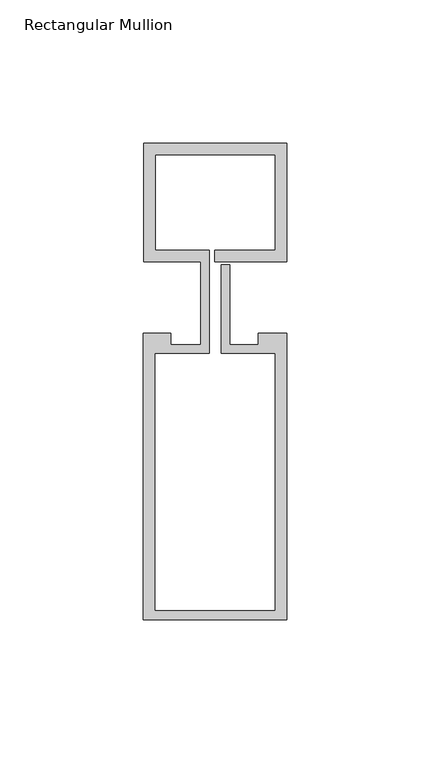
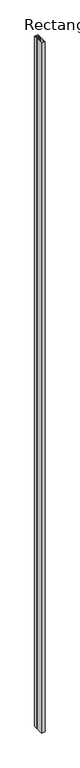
"""IFC4 building model written with IfcOpenShell, lengths in millimetres: member geometry, Rectangular Mullion : Reynaers_CW-50_Mullion-Transom_Vertical_41.5mm_Facecap-02D."""

from ifc_helpers import new_model, si_unit, frame, origin, place, context, project, spatial, polyline, outline, extrude, source, transform, mapped, element, save


def rectangular_mullion_a78560a7(model_context):
    return source(origin(), model_context, "Body", "SweptSolid", [
        extrude(outline(polyline([(-24.8004059, 54.0), (25.1995941, 54.0), (25.1995941, 12.5), (0.0, 12.5), (0.0, 16.5), (21.1995941, 16.5), (21.1995941, 50.0), (-20.8004059, 50.0), (-20.8004059, 16.5), (-1.9004059, 16.5), (-1.9004059, -19.5), (-20.994845, -19.5), (-20.994845, -109.4191338), (21.1995941, -109.4191338), (21.1995941, -19.5), (2.2995941, -19.5), (2.2995941, 11.5), (5.2995941, 11.5), (5.2995941, -16.5), (15.2996495, -16.5), (15.2996495, -12.5), (25.1995941, -12.5), (25.1995941, -112.5), (-24.994845, -112.5), (-24.994845, -12.5), (-15.2996495, -12.5), (-15.2996495, -16.5), (-4.9004059, -16.5), (-4.9004059, 12.5), (-24.8004059, 12.5), (-24.8004059, 54.0)])), frame((0.0, 0.0, -10400.0), z_axis=(0.0, 0.0, 1.0), x_axis=(1.0, 0.0, 0.0)), (0.0, 0.0, 1.0), 10400.0),
    ])


if __name__ == "__main__":
    model = new_model("IFC4")
    model_context = context("Model", 3, world=origin())
    ifc_project = project(units=[si_unit("LENGTHUNIT", "METRE", prefix="MILLI")], contexts=[model_context])
    site = spatial("IfcSite", under=ifc_project)
    building = spatial("IfcBuilding", under=site)
    placement = place(None, origin())
    rectangular_mullion_shape = rectangular_mullion_a78560a7(model_context)
    element("IfcMember", 1, ObjectType="Rectangular Mullion : Reynaers_CW-50_Mullion-Transom_Vertical_41.5mm_Facecap-02D", at=placement, inside=building, context=model_context, shape_type="MappedRepresentation", body=[
        mapped(rectangular_mullion_shape, transform((0.0, 0.0, 0.0), x_axis=(1.0, 0.0, 0.0), y_axis=(0.0, 1.0, 0.0), z_axis=(0.0, 0.0, 1.0))),
    ])
    save(model, "model.ifc")
